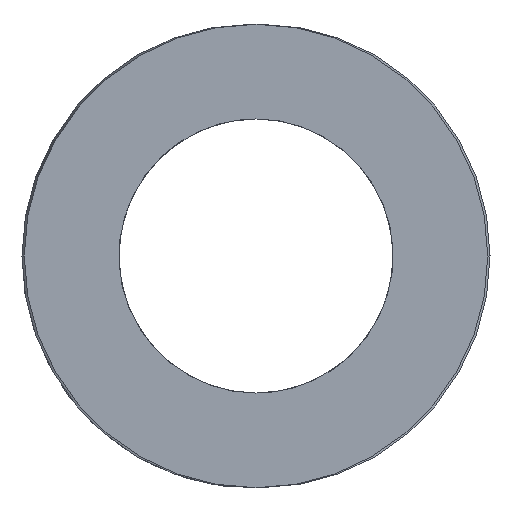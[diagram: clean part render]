
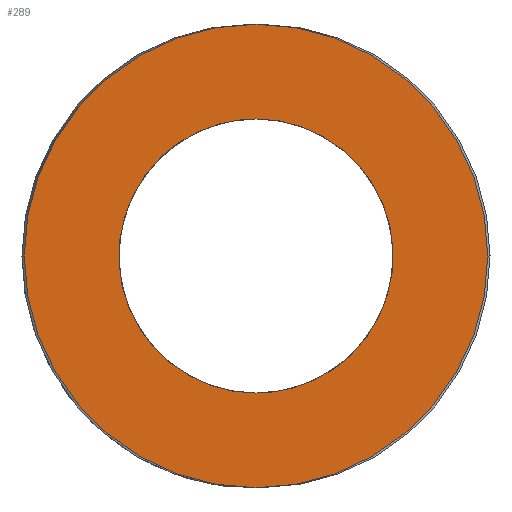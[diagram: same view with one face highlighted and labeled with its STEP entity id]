
A CAD part, left-side view. The second image highlights one B-rep face of the part: STEP entity #289.
In plain terms, the highlighted planar face has unit normal (-1, 0, 0).
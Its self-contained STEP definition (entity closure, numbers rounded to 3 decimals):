
#63=CARTESIAN_POINT('Vertex',(0.,4.65,0.)) ;
#77=CARTESIAN_POINT('Vertex',(0.,-4.65,0.)) ;
#80=CARTESIAN_POINT('Axis2P3D Location',(0.,0.,0.)) ;
#97=CARTESIAN_POINT('Axis2P3D Location',(0.,0.,0.)) ;
#226=CARTESIAN_POINT('Axis2P3D Location',(0.,2.325,0.)) ;
#236=CARTESIAN_POINT('Control Point',(0.,0.,-2.75)) ;
#237=CARTESIAN_POINT('Control Point',(0.,0.325,-2.75)) ;
#238=CARTESIAN_POINT('Control Point',(0.,0.65,-2.702)) ;
#239=CARTESIAN_POINT('Control Point',(0.,0.965,-2.606)) ;
#240=CARTESIAN_POINT('Control Point',(0.,1.559,-2.324)) ;
#241=CARTESIAN_POINT('Control Point',(0.,2.045,-1.882)) ;
#242=CARTESIAN_POINT('Control Point',(0.,2.253,-1.626)) ;
#243=CARTESIAN_POINT('Control Point',(0.,2.589,-1.061)) ;
#244=CARTESIAN_POINT('Control Point',(0.,2.747,-0.424)) ;
#245=CARTESIAN_POINT('Control Point',(0.,2.777,-0.095)) ;
#246=CARTESIAN_POINT('Control Point',(0.,2.741,0.561)) ;
#247=CARTESIAN_POINT('Control Point',(0.,2.517,1.178)) ;
#248=CARTESIAN_POINT('Control Point',(0.,2.36,1.468)) ;
#249=CARTESIAN_POINT('Control Point',(0.,1.964,1.993)) ;
#250=CARTESIAN_POINT('Control Point',(0.,1.434,2.38)) ;
#251=CARTESIAN_POINT('Control Point',(0.,1.142,2.534)) ;
#252=CARTESIAN_POINT('Control Point',(0.,0.733,2.675)) ;
#253=CARTESIAN_POINT('Control Point',(0.,0.309,2.735)) ;
#254=CARTESIAN_POINT('Control Point',(0.,0.206,2.745)) ;
#255=CARTESIAN_POINT('Control Point',(0.,0.103,2.75)) ;
#256=CARTESIAN_POINT('Control Point',(0.,0.,2.75)) ;
#257=CARTESIAN_POINT('Vertex',(0.,0.,-2.75)) ;
#259=CARTESIAN_POINT('Vertex',(0.,0.,2.75)) ;
#263=CARTESIAN_POINT('Control Point',(0.,0.,2.75)) ;
#264=CARTESIAN_POINT('Control Point',(0.,-0.325,2.75)) ;
#265=CARTESIAN_POINT('Control Point',(0.,-0.65,2.702)) ;
#266=CARTESIAN_POINT('Control Point',(0.,-0.965,2.606)) ;
#267=CARTESIAN_POINT('Control Point',(0.,-1.559,2.324)) ;
#268=CARTESIAN_POINT('Control Point',(0.,-2.045,1.882)) ;
#269=CARTESIAN_POINT('Control Point',(0.,-2.253,1.626)) ;
#270=CARTESIAN_POINT('Control Point',(0.,-2.589,1.061)) ;
#271=CARTESIAN_POINT('Control Point',(0.,-2.747,0.424)) ;
#272=CARTESIAN_POINT('Control Point',(0.,-2.777,0.095)) ;
#273=CARTESIAN_POINT('Control Point',(0.,-2.741,-0.561)) ;
#274=CARTESIAN_POINT('Control Point',(0.,-2.517,-1.178)) ;
#275=CARTESIAN_POINT('Control Point',(0.,-2.36,-1.468)) ;
#276=CARTESIAN_POINT('Control Point',(0.,-1.964,-1.993)) ;
#277=CARTESIAN_POINT('Control Point',(0.,-1.434,-2.38)) ;
#278=CARTESIAN_POINT('Control Point',(0.,-1.142,-2.534)) ;
#279=CARTESIAN_POINT('Control Point',(0.,-0.733,-2.675)) ;
#280=CARTESIAN_POINT('Control Point',(0.,-0.309,-2.735)) ;
#281=CARTESIAN_POINT('Control Point',(0.,-0.206,-2.745)) ;
#282=CARTESIAN_POINT('Control Point',(0.,-0.103,-2.75)) ;
#283=CARTESIAN_POINT('Control Point',(0.,0.,-2.75)) ;
#81=DIRECTION('Axis2P3D Direction',(1.,-0.,0.)) ;
#98=DIRECTION('Axis2P3D Direction',(1.,-0.,0.)) ;
#227=DIRECTION('Axis2P3D Direction',(-1.,0.,0.)) ;
#228=DIRECTION('Axis2P3D XDirection',(0.,1.,0.)) ;
#82=AXIS2_PLACEMENT_3D('Circle Axis2P3D',#80,#81,$) ;
#99=AXIS2_PLACEMENT_3D('Circle Axis2P3D',#97,#98,$) ;
#229=AXIS2_PLACEMENT_3D('Plane Axis2P3D',#226,#227,#228) ;
#232=ORIENTED_EDGE('',*,*,#84,.T.) ;
#233=ORIENTED_EDGE('',*,*,#101,.T.) ;
#286=ORIENTED_EDGE('',*,*,#261,.T.) ;
#287=ORIENTED_EDGE('',*,*,#284,.T.) ;
#288=FACE_BOUND('',#285,.T.) ;
#289=ADVANCED_FACE('392-B10-044',(#234,#288),#230,.T.) ;
#235=B_SPLINE_CURVE_WITH_KNOTS('',5,(#236,#237,#238,#239,#240,#241,#242,#243,#244,#245,#246,#247,#248,#249,#250,#251,#252,#253,#254,#255,#256),.UNSPECIFIED.,.F.,.U.,(6,3,3,3,3,3,6),(0.,2.298,4.596,6.893,9.191,11.489,12.217),.UNSPECIFIED.) ;
#262=B_SPLINE_CURVE_WITH_KNOTS('',5,(#263,#264,#265,#266,#267,#268,#269,#270,#271,#272,#273,#274,#275,#276,#277,#278,#279,#280,#281,#282,#283),.UNSPECIFIED.,.F.,.U.,(6,3,3,3,3,3,6),(0.,2.298,4.596,6.893,9.191,11.489,12.217),.UNSPECIFIED.) ;
#83=CIRCLE('generated circle',#82,4.65) ;
#100=CIRCLE('generated circle',#99,4.65) ;
#84=EDGE_CURVE('',#64,#78,#83,.F.) ;
#101=EDGE_CURVE('',#78,#64,#100,.F.) ;
#261=EDGE_CURVE('',#258,#260,#235,.T.) ;
#284=EDGE_CURVE('',#260,#258,#262,.T.) ;
#231=EDGE_LOOP('',(#232,#233)) ;
#285=EDGE_LOOP('',(#286,#287)) ;
#234=FACE_OUTER_BOUND('',#231,.T.) ;
#230=PLANE('Plane',#229) ;
#64=VERTEX_POINT('',#63) ;
#78=VERTEX_POINT('',#77) ;
#258=VERTEX_POINT('',#257) ;
#260=VERTEX_POINT('',#259) ;
